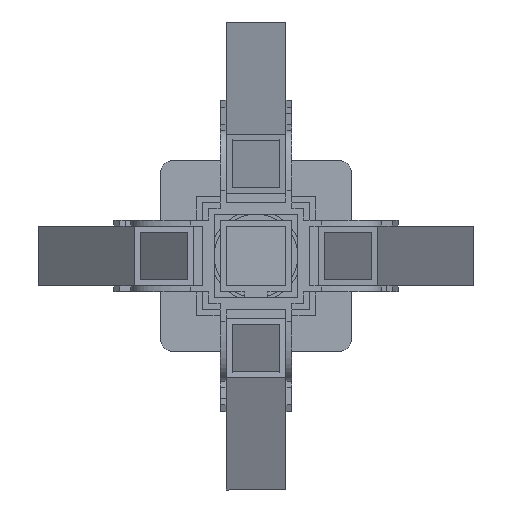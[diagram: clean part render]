
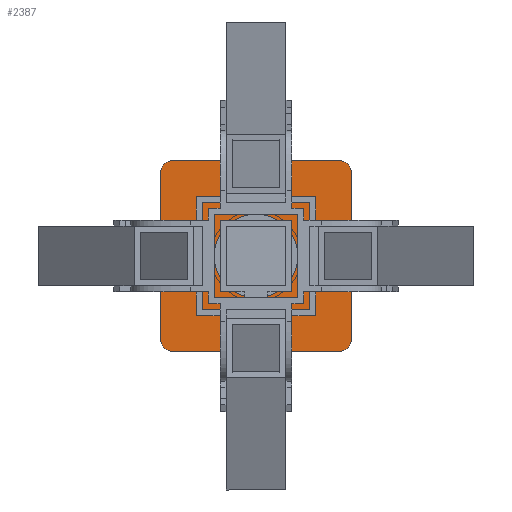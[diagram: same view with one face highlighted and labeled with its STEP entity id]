
A CAD part, front view. The second image highlights one B-rep face of the part: STEP entity #2387.
In plain terms, the highlighted planar face has unit normal (0, -1, 0).
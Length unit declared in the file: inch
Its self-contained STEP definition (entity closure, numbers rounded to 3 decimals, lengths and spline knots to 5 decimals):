
#85 = EDGE_CURVE ( 'NONE', #7534, #5257, #7907, .T. ) ;
#136 = EDGE_CURVE ( 'NONE', #6803, #6288, #4351, .T. ) ;
#142 = ORIENTED_EDGE ( 'NONE', *, *, #6877, .T. ) ;
#147 = EDGE_CURVE ( 'NONE', #6288, #3395, #2434, .T. ) ;
#307 = CARTESIAN_POINT ( 'NONE',  ( -1.75, 52., 2. ) ) ;
#435 = ORIENTED_EDGE ( 'NONE', *, *, #7945, .F. ) ;
#455 = ORIENTED_EDGE ( 'NONE', *, *, #2701, .T. ) ;
#491 = DIRECTION ( 'NONE',  ( 0., 1., 0. ) ) ;
#694 = CARTESIAN_POINT ( 'NONE',  ( -2., 52., -1.75 ) ) ;
#756 = LINE ( 'NONE', #6629, #3969 ) ;
#757 = VECTOR ( 'NONE', #4069, 39.37008 ) ;
#894 = CARTESIAN_POINT ( 'NONE',  ( 1.75, 52., 1.75 ) ) ;
#1039 = CARTESIAN_POINT ( 'NONE',  ( 0.75, 52., 0.75 ) ) ;
#1047 = VECTOR ( 'NONE', #1698, 39.37008 ) ;
#1063 = VERTEX_POINT ( 'NONE', #2880 ) ;
#1229 = AXIS2_PLACEMENT_3D ( 'NONE', #4923, #491, #4954 ) ;
#1299 = CARTESIAN_POINT ( 'NONE',  ( 0.25, 52., -0.875 ) ) ;
#1312 = VERTEX_POINT ( 'NONE', #6483 ) ;
#1355 = LINE ( 'NONE', #5890, #2842 ) ;
#1382 = LINE ( 'NONE', #4190, #6454 ) ;
#1384 = EDGE_CURVE ( 'NONE', #4131, #1312, #3887, .T. ) ;
#1455 = ORIENTED_EDGE ( 'NONE', *, *, #4278, .F. ) ;
#1511 = DIRECTION ( 'NONE',  ( 0., 0., 1. ) ) ;
#1631 = VECTOR ( 'NONE', #6042, 39.37008 ) ;
#1698 = DIRECTION ( 'NONE',  ( 0., 0., 1. ) ) ;
#1834 = DIRECTION ( 'NONE',  ( 0., 0., -1. ) ) ;
#1939 = DIRECTION ( 'NONE',  ( 0., 1., 0. ) ) ;
#1957 = VERTEX_POINT ( 'NONE', #3795 ) ;
#1986 = VERTEX_POINT ( 'NONE', #1299 ) ;
#2097 = VERTEX_POINT ( 'NONE', #6490 ) ;
#2146 = VECTOR ( 'NONE', #2733, 39.37008 ) ;
#2219 = CARTESIAN_POINT ( 'NONE',  ( 1.75, 52., 2. ) ) ;
#2222 = DIRECTION ( 'NONE',  ( 0., 0., -1. ) ) ;
#2263 = ORIENTED_EDGE ( 'NONE', *, *, #2647, .T. ) ;
#2351 = CARTESIAN_POINT ( 'NONE',  ( -0.75, 52., -0.75 ) ) ;
#2361 = CARTESIAN_POINT ( 'NONE',  ( -0.75, 52., 0.75 ) ) ;
#2387 = ADVANCED_FACE ( 'NONE', ( #2748, #2553 ), #8126, .F. ) ;
#2434 = CIRCLE ( 'NONE', #3195, 0.25 ) ;
#2553 = FACE_BOUND ( 'NONE', #6321, .T. ) ;
#2647 = EDGE_CURVE ( 'NONE', #1986, #4131, #7103, .T. ) ;
#2693 = DIRECTION ( 'NONE',  ( 1., 0., 0. ) ) ;
#2701 = EDGE_CURVE ( 'NONE', #2097, #3158, #6709, .T. ) ;
#2733 = DIRECTION ( 'NONE',  ( 0., 0., 1. ) ) ;
#2739 = AXIS2_PLACEMENT_3D ( 'NONE', #894, #5348, #1511 ) ;
#2748 = FACE_OUTER_BOUND ( 'NONE', #6824, .T. ) ;
#2842 = VECTOR ( 'NONE', #2693, 39.37008 ) ;
#2880 = CARTESIAN_POINT ( 'NONE',  ( 2., 52., 1.75 ) ) ;
#2959 = DIRECTION ( 'NONE',  ( 0., 1., 0. ) ) ;
#3097 = CARTESIAN_POINT ( 'NONE',  ( -0.25, 52., -0.875 ) ) ;
#3158 = VERTEX_POINT ( 'NONE', #6032 ) ;
#3195 = AXIS2_PLACEMENT_3D ( 'NONE', #7361, #4738, #7258 ) ;
#3213 = VERTEX_POINT ( 'NONE', #2361 ) ;
#3265 = CARTESIAN_POINT ( 'NONE',  ( -1.75, 52., -2. ) ) ;
#3389 = ORIENTED_EDGE ( 'NONE', *, *, #6643, .T. ) ;
#3395 = VERTEX_POINT ( 'NONE', #694 ) ;
#3397 = CARTESIAN_POINT ( 'NONE',  ( -2., 52., 1.75 ) ) ;
#3795 = CARTESIAN_POINT ( 'NONE',  ( 2., 52., -1.75 ) ) ;
#3887 = LINE ( 'NONE', #7159, #2146 ) ;
#3969 = VECTOR ( 'NONE', #7910, 39.37008 ) ;
#3985 = VERTEX_POINT ( 'NONE', #4786 ) ;
#4007 = ORIENTED_EDGE ( 'NONE', *, *, #7702, .F. ) ;
#4013 = ORIENTED_EDGE ( 'NONE', *, *, #6968, .F. ) ;
#4069 = DIRECTION ( 'NONE',  ( -1., 0., 0. ) ) ;
#4131 = VERTEX_POINT ( 'NONE', #3097 ) ;
#4146 = LINE ( 'NONE', #8180, #5613 ) ;
#4190 = CARTESIAN_POINT ( 'NONE',  ( 0.25, 52., -0.875 ) ) ;
#4278 = EDGE_CURVE ( 'NONE', #1957, #6803, #5875, .T. ) ;
#4294 = CARTESIAN_POINT ( 'NONE',  ( 2., 52., 1.75 ) ) ;
#4307 = DIRECTION ( 'NONE',  ( -1., 0., 0. ) ) ;
#4351 = LINE ( 'NONE', #3265, #7517 ) ;
#4391 = LINE ( 'NONE', #2351, #4584 ) ;
#4563 = CIRCLE ( 'NONE', #2739, 0.25 ) ;
#4584 = VECTOR ( 'NONE', #4307, 39.37008 ) ;
#4617 = ORIENTED_EDGE ( 'NONE', *, *, #136, .F. ) ;
#4738 = DIRECTION ( 'NONE',  ( 0., 1., 0. ) ) ;
#4761 = EDGE_CURVE ( 'NONE', #1312, #3985, #4391, .T. ) ;
#4786 = CARTESIAN_POINT ( 'NONE',  ( -0.75, 52., -0.75 ) ) ;
#4809 = CARTESIAN_POINT ( 'NONE',  ( -1.75, 52., 1.75 ) ) ;
#4904 = LINE ( 'NONE', #4294, #6595 ) ;
#4909 = ORIENTED_EDGE ( 'NONE', *, *, #5239, .T. ) ;
#4923 = CARTESIAN_POINT ( 'NONE',  ( 1.75, 52., 1.75 ) ) ;
#4954 = DIRECTION ( 'NONE',  ( 0., 0., 1. ) ) ;
#5146 = DIRECTION ( 'NONE',  ( -1., 0., 0. ) ) ;
#5147 = ORIENTED_EDGE ( 'NONE', *, *, #6431, .F. ) ;
#5214 = VECTOR ( 'NONE', #6345, 39.37008 ) ;
#5239 = EDGE_CURVE ( 'NONE', #3158, #1986, #1382, .T. ) ;
#5257 = VERTEX_POINT ( 'NONE', #307 ) ;
#5319 = VERTEX_POINT ( 'NONE', #1039 ) ;
#5334 = CARTESIAN_POINT ( 'NONE',  ( -2., 52., 1.75 ) ) ;
#5348 = DIRECTION ( 'NONE',  ( 0., 1., 0. ) ) ;
#5404 = CARTESIAN_POINT ( 'NONE',  ( 0.25, 52., -0.75 ) ) ;
#5517 = ORIENTED_EDGE ( 'NONE', *, *, #7315, .T. ) ;
#5613 = VECTOR ( 'NONE', #1834, 39.37008 ) ;
#5765 = CARTESIAN_POINT ( 'NONE',  ( 1.75, 52., -1.75 ) ) ;
#5791 = CARTESIAN_POINT ( 'NONE',  ( -1.75, 52., -2. ) ) ;
#5875 = CIRCLE ( 'NONE', #7238, 0.25 ) ;
#5890 = CARTESIAN_POINT ( 'NONE',  ( -0.75, 52., 0.75 ) ) ;
#6032 = CARTESIAN_POINT ( 'NONE',  ( 0.25, 52., -0.75 ) ) ;
#6042 = DIRECTION ( 'NONE',  ( -1., 0., 0. ) ) ;
#6164 = CARTESIAN_POINT ( 'NONE',  ( -0.75, 52., 0.75 ) ) ;
#6288 = VERTEX_POINT ( 'NONE', #5791 ) ;
#6321 = EDGE_LOOP ( 'NONE', ( #5517, #455, #4909, #2263, #7693, #6830, #3389, #142 ) ) ;
#6345 = DIRECTION ( 'NONE',  ( 0., 0., 1. ) ) ;
#6399 = DIRECTION ( 'NONE',  ( 0., 0., -1. ) ) ;
#6431 = EDGE_CURVE ( 'NONE', #7600, #1063, #4563, .T. ) ;
#6454 = VECTOR ( 'NONE', #2222, 39.37008 ) ;
#6483 = CARTESIAN_POINT ( 'NONE',  ( -0.25, 52., -0.75 ) ) ;
#6490 = CARTESIAN_POINT ( 'NONE',  ( 0.75, 52., -0.75 ) ) ;
#6590 = CARTESIAN_POINT ( 'NONE',  ( 0.25, 52., -0.875 ) ) ;
#6595 = VECTOR ( 'NONE', #8066, 39.37008 ) ;
#6629 = CARTESIAN_POINT ( 'NONE',  ( -1.75, 52., 2. ) ) ;
#6643 = EDGE_CURVE ( 'NONE', #3985, #3213, #7812, .T. ) ;
#6709 = LINE ( 'NONE', #5404, #1631 ) ;
#6803 = VERTEX_POINT ( 'NONE', #8227 ) ;
#6824 = EDGE_LOOP ( 'NONE', ( #5147, #4013, #7295, #435, #7846, #4617, #1455, #4007 ) ) ;
#6829 = DIRECTION ( 'NONE',  ( 0., 0., -1. ) ) ;
#6830 = ORIENTED_EDGE ( 'NONE', *, *, #4761, .T. ) ;
#6877 = EDGE_CURVE ( 'NONE', #3213, #5319, #1355, .T. ) ;
#6883 = LINE ( 'NONE', #3397, #5214 ) ;
#6968 = EDGE_CURVE ( 'NONE', #5257, #7600, #756, .T. ) ;
#7103 = LINE ( 'NONE', #6590, #757 ) ;
#7159 = CARTESIAN_POINT ( 'NONE',  ( -0.25, 52., -0.875 ) ) ;
#7238 = AXIS2_PLACEMENT_3D ( 'NONE', #5765, #1939, #6399 ) ;
#7258 = DIRECTION ( 'NONE',  ( 0., 0., -1. ) ) ;
#7295 = ORIENTED_EDGE ( 'NONE', *, *, #85, .F. ) ;
#7315 = EDGE_CURVE ( 'NONE', #5319, #2097, #4146, .T. ) ;
#7361 = CARTESIAN_POINT ( 'NONE',  ( -1.75, 52., -1.75 ) ) ;
#7517 = VECTOR ( 'NONE', #5146, 39.37008 ) ;
#7534 = VERTEX_POINT ( 'NONE', #5334 ) ;
#7600 = VERTEX_POINT ( 'NONE', #2219 ) ;
#7693 = ORIENTED_EDGE ( 'NONE', *, *, #1384, .T. ) ;
#7702 = EDGE_CURVE ( 'NONE', #1063, #1957, #4904, .T. ) ;
#7812 = LINE ( 'NONE', #6164, #1047 ) ;
#7846 = ORIENTED_EDGE ( 'NONE', *, *, #147, .F. ) ;
#7907 = CIRCLE ( 'NONE', #8033, 0.25 ) ;
#7910 = DIRECTION ( 'NONE',  ( 1., 0., 0. ) ) ;
#7945 = EDGE_CURVE ( 'NONE', #3395, #7534, #6883, .T. ) ;
#8033 = AXIS2_PLACEMENT_3D ( 'NONE', #4809, #2959, #6829 ) ;
#8066 = DIRECTION ( 'NONE',  ( 0., 0., -1. ) ) ;
#8126 = PLANE ( 'NONE',  #1229 ) ;
#8180 = CARTESIAN_POINT ( 'NONE',  ( 0.75, 52., 0.75 ) ) ;
#8227 = CARTESIAN_POINT ( 'NONE',  ( 1.75, 52., -2. ) ) ;
